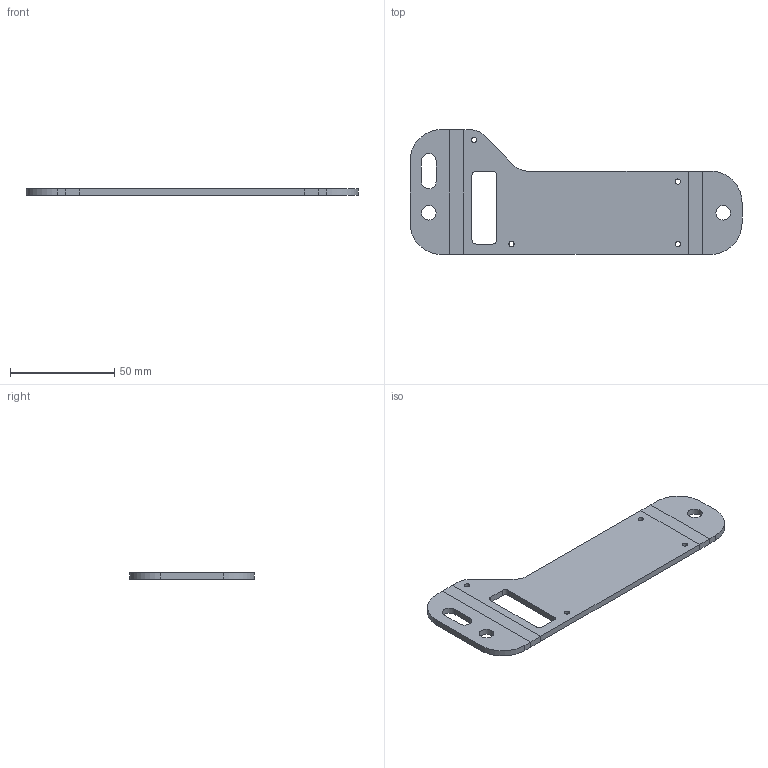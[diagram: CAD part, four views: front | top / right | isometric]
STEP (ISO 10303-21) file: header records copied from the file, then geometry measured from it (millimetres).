
FILE_DESCRIPTION(/* description */ (''),/* implementation_level */ '2;1');
FILE_NAME(/* name */ 'C:/Users/anton/Documents/Kerbal Space Program/Kerbal_Control_Panel/KCP2/CAD/ForManufacture/ThrottleBracket_v38_FlatPattern.step',/* time_stamp */ '2020-11-13T15:23:46-08:00',/* author */ (''),/* organization */ (''),/* preprocessor_version */ 'ST-DEVELOPER v18.1',/* originating_system */ 'Autodesk Translation Framework v9.3.0.1241',/* authorisation */ '');
FILE_SCHEMA (('AUTOMOTIVE_DESIGN { 1 0 10303 214 3 1 1 }'));
Length unit declared in the file: millimetre
Products named in the file (1): Bracket
Bounding box: 159.57 x 60 x 3 mm (x, y, z)
Volume: 19270 mm3; surface area: 14674.1 mm2
Topology: 1 solids, 1 shells, 48 faces, 122 edges, 76 vertices
Faces by surface type: plane 30, cylinder 18
Full cylindrical faces by diameter (mm): 2.529 x4, 7 x2
Entity records: 1506 total; most frequent: DIRECTION 256, CARTESIAN_POINT 247, ORIENTED_EDGE 244, EDGE_CURVE 122, LINE 86, VECTOR 86, AXIS2_PLACEMENT_3D 85, VERTEX_POINT 76
